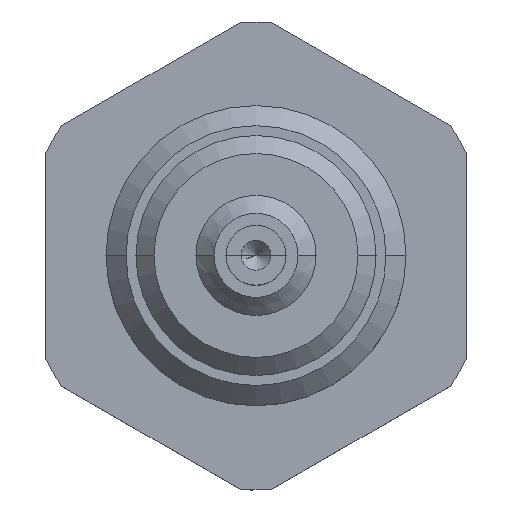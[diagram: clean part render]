
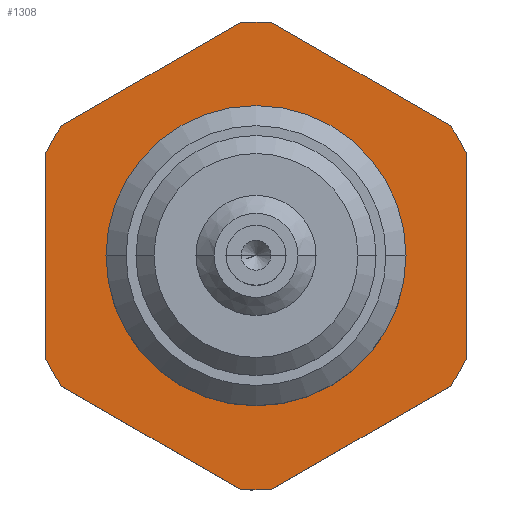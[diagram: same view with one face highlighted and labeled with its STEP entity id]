
A CAD part, top view. The second image highlights one B-rep face of the part: STEP entity #1308.
In plain terms, the highlighted planar face has unit normal (0, 0, 1).
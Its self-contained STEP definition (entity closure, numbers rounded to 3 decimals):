
#13 = AXIS2_PLACEMENT_3D ( 'NONE', #640, #514, #1760 ) ;
#25 = CARTESIAN_POINT ( 'NONE',  ( 3.5, 1.72, -7.9 ) ) ;
#36 = DIRECTION ( 'NONE',  ( 0., 0., -1. ) ) ;
#40 = VECTOR ( 'NONE', #763, 1000. ) ;
#49 = VERTEX_POINT ( 'NONE', #1111 ) ;
#52 = VERTEX_POINT ( 'NONE', #1724 ) ;
#60 = CARTESIAN_POINT ( 'NONE',  ( -2.616, 2.531, -7.9 ) ) ;
#76 = ORIENTED_EDGE ( 'NONE', *, *, #748, .T. ) ;
#93 = CARTESIAN_POINT ( 'NONE',  ( 0., 0., -7.9 ) ) ;
#100 = VERTEX_POINT ( 'NONE', #1192 ) ;
#106 = LINE ( 'NONE', #1225, #1290 ) ;
#116 = LINE ( 'NONE', #1693, #166 ) ;
#117 = CIRCLE ( 'NONE', #1198, 3.9 ) ;
#148 = ORIENTED_EDGE ( 'NONE', *, *, #329, .F. ) ;
#156 = CARTESIAN_POINT ( 'NONE',  ( -3.5, 1.72, -7.9 ) ) ;
#166 = VECTOR ( 'NONE', #773, 1000. ) ;
#234 = DIRECTION ( 'NONE',  ( -1., 0., 0. ) ) ;
#250 = DIRECTION ( 'NONE',  ( 0., 0., 1. ) ) ;
#285 = DIRECTION ( 'NONE',  ( 0., 0., 1. ) ) ;
#316 = AXIS2_PLACEMENT_3D ( 'NONE', #1715, #1329, #1376 ) ;
#320 = ORIENTED_EDGE ( 'NONE', *, *, #1274, .F. ) ;
#329 = EDGE_CURVE ( 'NONE', #49, #886, #117, .T. ) ;
#381 = VERTEX_POINT ( 'NONE', #1818 ) ;
#395 = CIRCLE ( 'NONE', #675, 2. ) ;
#399 = EDGE_CURVE ( 'NONE', #52, #886, #106, .T. ) ;
#412 = EDGE_LOOP ( 'NONE', ( #1656, #1616, #320, #853, #1585, #1426, #1139, #841, #148, #464, #1229, #1800 ) ) ;
#420 = CIRCLE ( 'NONE', #1161, 2. ) ;
#464 = ORIENTED_EDGE ( 'NONE', *, *, #1700, .F. ) ;
#505 = EDGE_CURVE ( 'NONE', #799, #1783, #420, .T. ) ;
#509 = VERTEX_POINT ( 'NONE', #25 ) ;
#514 = DIRECTION ( 'NONE',  ( 0., 0., 1. ) ) ;
#554 = VERTEX_POINT ( 'NONE', #1407 ) ;
#572 = CARTESIAN_POINT ( 'NONE',  ( 0., 0., -7.9 ) ) ;
#582 = DIRECTION ( 'NONE',  ( 0., 1., 0. ) ) ;
#598 = DIRECTION ( 'NONE',  ( -1., 0., 0. ) ) ;
#620 = DIRECTION ( 'NONE',  ( -1., 0., 0. ) ) ;
#623 = VECTOR ( 'NONE', #1728, 1000. ) ;
#632 = VERTEX_POINT ( 'NONE', #941 ) ;
#640 = CARTESIAN_POINT ( 'NONE',  ( 0., -2., -7.9 ) ) ;
#655 = CIRCLE ( 'NONE', #1674, 3.9 ) ;
#675 = AXIS2_PLACEMENT_3D ( 'NONE', #916, #1688, #1810 ) ;
#678 = EDGE_CURVE ( 'NONE', #632, #381, #1483, .T. ) ;
#682 = CARTESIAN_POINT ( 'NONE',  ( 0.26, 3.891, -7.9 ) ) ;
#721 = DIRECTION ( 'NONE',  ( 0.866, -0.5, 0. ) ) ;
#724 = CARTESIAN_POINT ( 'NONE',  ( 0., 0., -7.9 ) ) ;
#748 = EDGE_CURVE ( 'NONE', #1783, #799, #395, .T. ) ;
#758 = CARTESIAN_POINT ( 'NONE',  ( -2., 0., -7.9 ) ) ;
#763 = DIRECTION ( 'NONE',  ( 0.866, 0.5, 0. ) ) ;
#773 = DIRECTION ( 'NONE',  ( -0.866, -0.5, 0. ) ) ;
#799 = VERTEX_POINT ( 'NONE', #758 ) ;
#806 = CIRCLE ( 'NONE', #1101, 3.9 ) ;
#841 = ORIENTED_EDGE ( 'NONE', *, *, #399, .T. ) ;
#853 = ORIENTED_EDGE ( 'NONE', *, *, #1061, .F. ) ;
#863 = LINE ( 'NONE', #979, #1026 ) ;
#874 = DIRECTION ( 'NONE',  ( -1., 0., 0. ) ) ;
#877 = CARTESIAN_POINT ( 'NONE',  ( 0., 0., -7.9 ) ) ;
#878 = VERTEX_POINT ( 'NONE', #156 ) ;
#886 = VERTEX_POINT ( 'NONE', #682 ) ;
#902 = VERTEX_POINT ( 'NONE', #1160 ) ;
#916 = CARTESIAN_POINT ( 'NONE',  ( 0., 0., -7.9 ) ) ;
#929 = LINE ( 'NONE', #1440, #623 ) ;
#941 = CARTESIAN_POINT ( 'NONE',  ( -3.24, -2.171, -7.9 ) ) ;
#953 = DIRECTION ( 'NONE',  ( 1., 0., 0. ) ) ;
#969 = ORIENTED_EDGE ( 'NONE', *, *, #505, .T. ) ;
#972 = DIRECTION ( 'NONE',  ( 0., 0., -1. ) ) ;
#979 = CARTESIAN_POINT ( 'NONE',  ( -0.884, -3.531, -7.9 ) ) ;
#1026 = VECTOR ( 'NONE', #721, 1000. ) ;
#1039 = VERTEX_POINT ( 'NONE', #1633 ) ;
#1051 = DIRECTION ( 'NONE',  ( 0., 0., -1. ) ) ;
#1061 = EDGE_CURVE ( 'NONE', #1039, #902, #116, .T. ) ;
#1095 = CARTESIAN_POINT ( 'NONE',  ( 0., 0., -7.9 ) ) ;
#1101 = AXIS2_PLACEMENT_3D ( 'NONE', #877, #36, #874 ) ;
#1111 = CARTESIAN_POINT ( 'NONE',  ( -0.26, 3.891, -7.9 ) ) ;
#1139 = ORIENTED_EDGE ( 'NONE', *, *, #1755, .T. ) ;
#1160 = CARTESIAN_POINT ( 'NONE',  ( 0.26, -3.891, -7.9 ) ) ;
#1161 = AXIS2_PLACEMENT_3D ( 'NONE', #724, #972, #598 ) ;
#1192 = CARTESIAN_POINT ( 'NONE',  ( -3.24, 2.171, -7.9 ) ) ;
#1198 = AXIS2_PLACEMENT_3D ( 'NONE', #93, #1051, #234 ) ;
#1213 = AXIS2_PLACEMENT_3D ( 'NONE', #1095, #285, #953 ) ;
#1225 = CARTESIAN_POINT ( 'NONE',  ( 2.616, 2.531, -7.9 ) ) ;
#1229 = ORIENTED_EDGE ( 'NONE', *, *, #1455, .F. ) ;
#1244 = FACE_BOUND ( 'NONE', #1351, .T. ) ;
#1274 = EDGE_CURVE ( 'NONE', #902, #554, #806, .T. ) ;
#1290 = VECTOR ( 'NONE', #1702, 1000. ) ;
#1299 = CARTESIAN_POINT ( 'NONE',  ( 3.5, -1.72, -7.9 ) ) ;
#1308 = ADVANCED_FACE ( 'NONE', ( #1244, #1598 ), #1468, .T. ) ;
#1329 = DIRECTION ( 'NONE',  ( 0., 0., -1. ) ) ;
#1334 = EDGE_CURVE ( 'NONE', #381, #878, #929, .T. ) ;
#1345 = DIRECTION ( 'NONE',  ( 1., 0., 0. ) ) ;
#1351 = EDGE_LOOP ( 'NONE', ( #969, #76 ) ) ;
#1376 = DIRECTION ( 'NONE',  ( -1., 0., 0. ) ) ;
#1386 = CIRCLE ( 'NONE', #1649, 3.9 ) ;
#1393 = LINE ( 'NONE', #1404, #1732 ) ;
#1404 = CARTESIAN_POINT ( 'NONE',  ( 3.5, -2., -7.9 ) ) ;
#1407 = CARTESIAN_POINT ( 'NONE',  ( -0.26, -3.891, -7.9 ) ) ;
#1426 = ORIENTED_EDGE ( 'NONE', *, *, #1611, .T. ) ;
#1440 = CARTESIAN_POINT ( 'NONE',  ( -3.5, -2., -7.9 ) ) ;
#1447 = VERTEX_POINT ( 'NONE', #1299 ) ;
#1455 = EDGE_CURVE ( 'NONE', #878, #100, #1386, .T. ) ;
#1468 = PLANE ( 'NONE',  #13 ) ;
#1483 = CIRCLE ( 'NONE', #316, 3.9 ) ;
#1493 = EDGE_CURVE ( 'NONE', #632, #554, #863, .T. ) ;
#1552 = CIRCLE ( 'NONE', #1213, 3.9 ) ;
#1585 = ORIENTED_EDGE ( 'NONE', *, *, #1794, .T. ) ;
#1591 = DIRECTION ( 'NONE',  ( 0., 0., -1. ) ) ;
#1598 = FACE_OUTER_BOUND ( 'NONE', #412, .T. ) ;
#1611 = EDGE_CURVE ( 'NONE', #1447, #509, #1393, .T. ) ;
#1616 = ORIENTED_EDGE ( 'NONE', *, *, #1493, .T. ) ;
#1622 = LINE ( 'NONE', #60, #40 ) ;
#1629 = CARTESIAN_POINT ( 'NONE',  ( 2., 0., -7.9 ) ) ;
#1633 = CARTESIAN_POINT ( 'NONE',  ( 3.24, -2.171, -7.9 ) ) ;
#1649 = AXIS2_PLACEMENT_3D ( 'NONE', #1731, #1591, #620 ) ;
#1656 = ORIENTED_EDGE ( 'NONE', *, *, #678, .F. ) ;
#1674 = AXIS2_PLACEMENT_3D ( 'NONE', #572, #250, #1345 ) ;
#1688 = DIRECTION ( 'NONE',  ( 0., 0., -1. ) ) ;
#1693 = CARTESIAN_POINT ( 'NONE',  ( 0.884, -3.531, -7.9 ) ) ;
#1700 = EDGE_CURVE ( 'NONE', #100, #49, #1622, .T. ) ;
#1702 = DIRECTION ( 'NONE',  ( -0.866, 0.5, 0. ) ) ;
#1715 = CARTESIAN_POINT ( 'NONE',  ( 0., 0., -7.9 ) ) ;
#1724 = CARTESIAN_POINT ( 'NONE',  ( 3.24, 2.171, -7.9 ) ) ;
#1728 = DIRECTION ( 'NONE',  ( 0., 1., 0. ) ) ;
#1731 = CARTESIAN_POINT ( 'NONE',  ( 0., 0., -7.9 ) ) ;
#1732 = VECTOR ( 'NONE', #582, 1000. ) ;
#1755 = EDGE_CURVE ( 'NONE', #509, #52, #1552, .T. ) ;
#1760 = DIRECTION ( 'NONE',  ( 1., 0., 0. ) ) ;
#1783 = VERTEX_POINT ( 'NONE', #1629 ) ;
#1794 = EDGE_CURVE ( 'NONE', #1039, #1447, #655, .T. ) ;
#1800 = ORIENTED_EDGE ( 'NONE', *, *, #1334, .F. ) ;
#1810 = DIRECTION ( 'NONE',  ( -1., 0., 0. ) ) ;
#1818 = CARTESIAN_POINT ( 'NONE',  ( -3.5, -1.72, -7.9 ) ) ;
